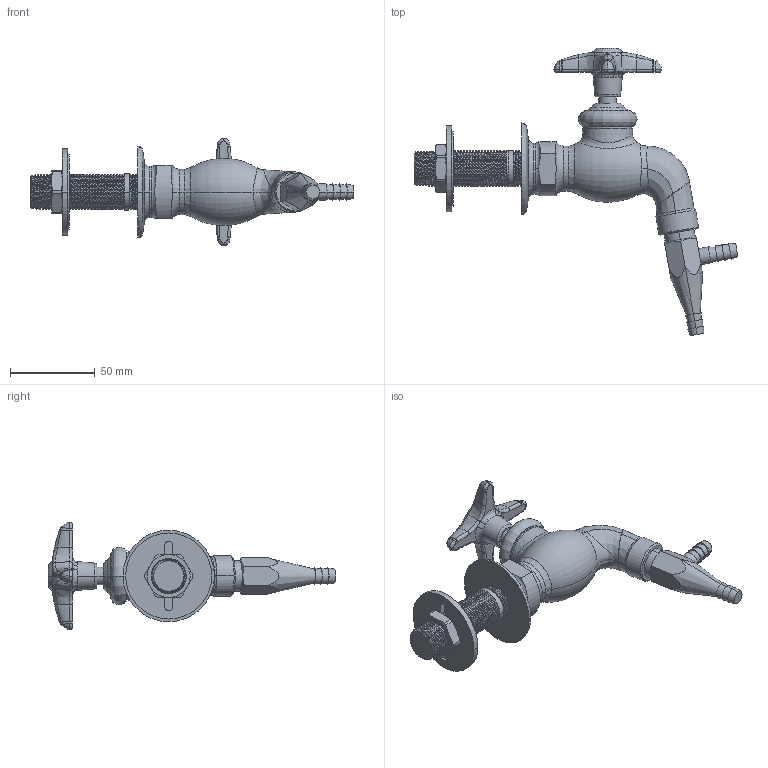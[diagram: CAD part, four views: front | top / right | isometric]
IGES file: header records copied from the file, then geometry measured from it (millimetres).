
Start section:  PTC IGES file: LWV4-A32.igs
Global section: file name: LWV4-A32.igs; native system: Creo Parametric by PTC Inc.; preprocessor: 2014500; author: usch_engrender; organization: Unknown; date: 20150915.131142; units: inch
Bounding box: 191.19 x 169.59 x 63.42 mm (x, y, z)
Volume: 160528.5 mm3; surface area: 38354.9 mm2
Topology: 1 solids, 4 shells, 513 faces, 1291 edges, 798 vertices
Faces by surface type: bspline 298, revolution 215
